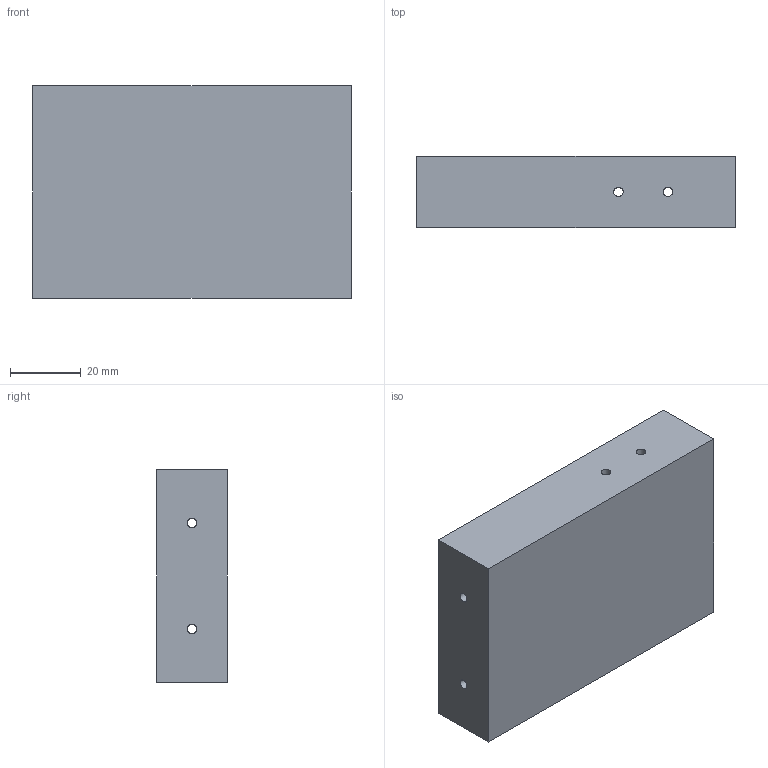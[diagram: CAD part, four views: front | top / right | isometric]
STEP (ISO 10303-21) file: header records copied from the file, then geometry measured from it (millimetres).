
FILE_DESCRIPTION(/* description */ ('STEP AP242 Edition 2','CAx-IF Rec.Pracs.---Representation and Presentation of Product Manufacturing Information (PMI)---4.0---2014-10-13','CAx-IF Rec.Pracs.---3D Tessellated Geometry---0.4---2014-09-14','2;1','CAx-IF Rec.Pracs.---User Defined Attributes---1.5---2016-08-15'),/* implementation_level */ '2;1');
FILE_NAME(/* name */ 'Arm Parts - ArmConnector1',/* time_stamp */ '2026-04-22T00:04:13Z',/* author */ (''),/* organization */ (''),/* preprocessor_version */ 'ST-DEVELOPER v20',/* originating_system */ 'ONSHAPE BY PTC INC, 1.213',/* authorisation */ ' ');
FILE_SCHEMA (('AP242_MANAGED_MODEL_BASED_3D_ENGINEERING_MIM_LF { 1 0 10303 442 3 1 4 }'));
Length unit declared in the file: metre
Products named in the file (1): ArmConnector1
Bounding box: 90 x 20 x 60 mm (x, y, z)
Volume: 106334.8 mm3; surface area: 19182.2 mm2
Topology: 1 solids, 1 shells, 18 faces, 54 edges, 30 vertices
Faces by surface type: cylinder 12, plane 6
Full cylindrical faces by diameter (mm): 2.7 x12
Entity records: 538 total; most frequent: DIRECTION 98, CARTESIAN_POINT 79, ORIENTED_EDGE 72, AXIS2_PLACEMENT_3D 43, EDGE_LOOP 38, FACE_BOUND 38, EDGE_CURVE 36, VERTEX_POINT 24
